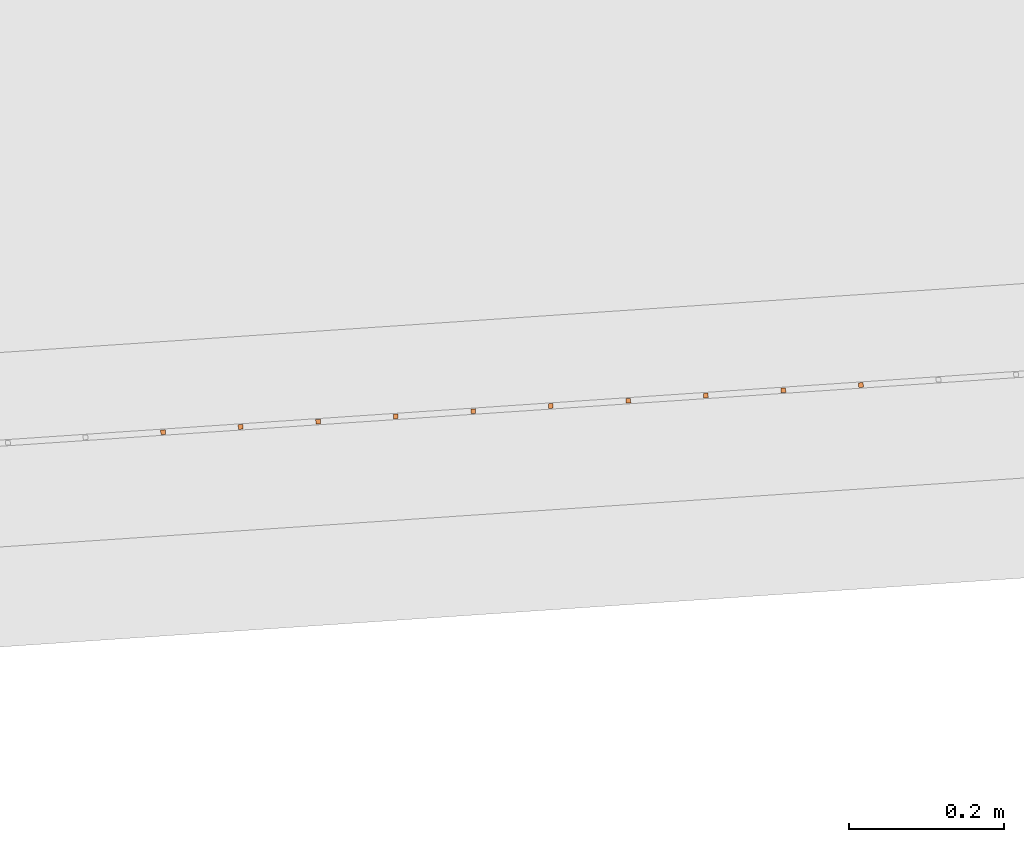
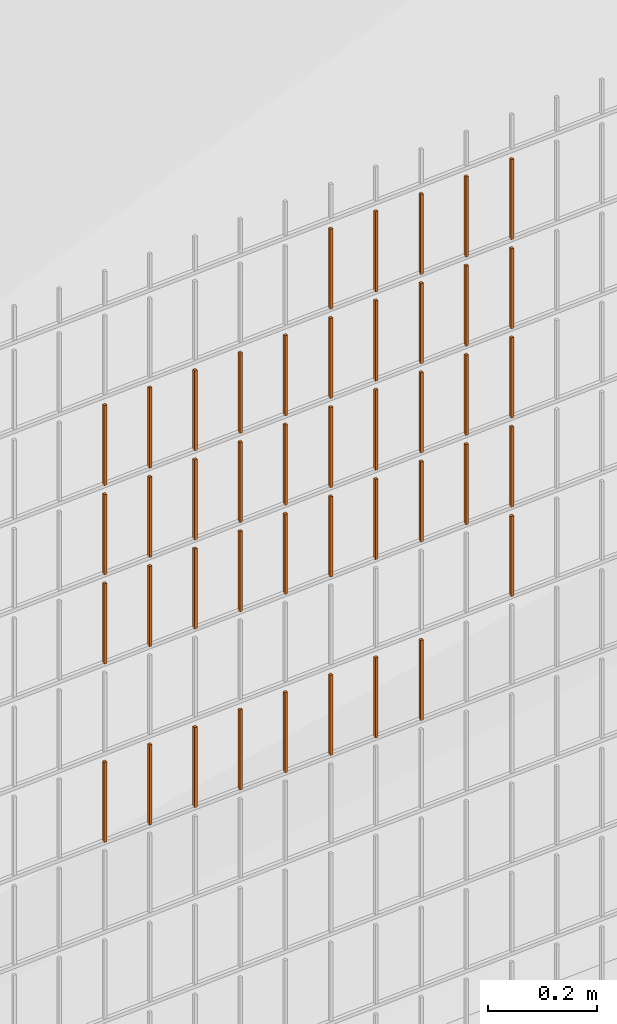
# One storey, part 86 of 1809: 44 proxies, 1 element without a shape of its own.
"""IFC2X3 building model written with IfcOpenShell, lengths in millimetres."""

from ifc_helpers import new_model, entity, si_unit, converted_unit, derived_unit, money_unit, direction, frame, origin_with_axes, place, context, subcontext, project, spatial, faceted_brep, source, transform, mapped, material, type_object, element, aggregate, save


model = new_model("IFC2X3")

# Units and contexts
model_context = context("Model", 3, precision=0.01, world=origin_with_axes(), true_north=direction((0.0, 1.0)))
body_context = subcontext(model_context, "Body", "Model", "MODEL_VIEW")
ifc_project = project(units=[si_unit("LENGTHUNIT", "METRE", prefix="MILLI"), si_unit("AREAUNIT", "SQUARE_METRE"), si_unit("VOLUMEUNIT", "CUBIC_METRE"), converted_unit("PLANEANGLEUNIT", "DEGREE", entity("IfcPlaneAngleMeasure", 0.0174532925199), si_unit("PLANEANGLEUNIT", "RADIAN"), dimensions=[0, 0, 0, 0, 0, 0, 0]), si_unit("SOLIDANGLEUNIT", "STERADIAN"), money_unit("EUR"), converted_unit("TIMEUNIT", "Year", entity("IfcTimeMeasure", 31556926.0), si_unit("TIMEUNIT", "SECOND"), dimensions=[0, 0, 1, 0, 0, 0, 0]), si_unit("MASSUNIT", "GRAM", prefix="KILO"), si_unit("THERMODYNAMICTEMPERATUREUNIT", "DEGREE_CELSIUS"), si_unit("LUMINOUSINTENSITYUNIT", "LUMEN"), si_unit("ENERGYUNIT", "JOULE", prefix="MEGA"), derived_unit("THERMALCONDUCTANCEUNIT", [(si_unit("POWERUNIT", "WATT"), 1), (si_unit("LENGTHUNIT", "METRE"), -1), (si_unit("THERMODYNAMICTEMPERATUREUNIT", "KELVIN"), -1)]), derived_unit("SPECIFICHEATCAPACITYUNIT", [(si_unit("ENERGYUNIT", "JOULE"), 1), (si_unit("MASSUNIT", "GRAM", prefix="KILO"), -1), (si_unit("THERMODYNAMICTEMPERATUREUNIT", "KELVIN"), -1)]), derived_unit("MASSDENSITYUNIT", [(si_unit("MASSUNIT", "GRAM", prefix="KILO"), 1), (si_unit("VOLUMEUNIT", "CUBIC_METRE"), -1)])], contexts=[model_context])

# Site, building, storey
site_placement = place(None, origin_with_axes())
site = spatial("IfcSite", under=ifc_project, at=site_placement, Name="Politse- ja Piirivalveameti ning Päästeameti ühishoone", CompositionType="ELEMENT")
building_placement = place(site_placement, origin_with_axes())
building = spatial("IfcBuilding", under=site, at=building_placement, Name="Politse- ja Piirivalveameti ning Päästeameti ühishoone", CompositionType="ELEMENT")
storey_placement = place(building_placement, origin_with_axes())
storey = spatial("IfcBuildingStorey", under=building, at=storey_placement, Name="Esimene korrus", CompositionType="ELEMENT", Elevation=0.0)

# Proxies
building_element_proxy_type_1 = type_object("IfcBuildingElementProxyType", Name="Railing Type", PredefinedType="NOTDEFINED")
proxy_1_placement = place(storey_placement, frame((89252.001212, -29183.4766571, 203.661247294), z_axis=(0.0, 0.0, 1.0), x_axis=(1.0, 0.0, 0.0)))
proxy_1 = element("IfcBuildingElementProxy", 1, at=proxy_1_placement, inside=storey, type_object=building_element_proxy_type_1, Name="PIIRDEAED")
ifc_material = material(Name="ET-03_Raud")
building_element_proxy_type_2 = type_object("IfcBuildingElementProxyType", Name="IfcBuildingElementProxy", PredefinedType="NOTDEFINED")
shared_shape_1 = source(origin_with_axes(), body_context, "Body", "Brep", [
    faceted_brep([(3.0, 3.0, -0.000752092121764), (-3.0, 3.0, -0.000752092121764), (-3.0, 3.0, 179.99926046), (3.0, 3.0, 179.99926046), (3.0, -3.0, 0.000752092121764), (-3.0, -3.0, 0.000752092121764), (-3.0, -3.0, 180.000764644), (3.0, -3.0, 180.000764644)], [[[0, 1, 2, 3]], [[0, 4, 5, 1]], [[1, 5, 6, 2]], [[3, 2, 6, 7]], [[4, 0, 3, 7]], [[5, 4, 7, 6]]]),
])
proxy_2_placement = place(proxy_1_placement, frame((-100497.68889, -24086.0143815, 801.982469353), z_axis=(0.0, 0.0, 1.0), x_axis=(1.0, 0.0, 0.0)))
proxy_2 = element("IfcBuildingElementProxy", 2, at=proxy_2_placement, type_object=building_element_proxy_type_2, material=ifc_material, Name="BALUSTER - 001", context=body_context, shape_type="MappedRepresentation", body=[
    mapped(shared_shape_1, transform((0.0, 0.0, 0.0), x_axis=(-0.0673926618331, 0.997726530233, 0.0), y_axis=(-0.997726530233, -0.0673926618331, 0.0), z_axis=(0.0, 0.0, 1.0))),
])
proxy_3_placement = place(proxy_1_placement, frame((-100597.461543, -24092.7536477, 801.957399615), z_axis=(0.0, 0.0, 1.0), x_axis=(1.0, 0.0, 0.0)))
proxy_3 = element("IfcBuildingElementProxy", 3, at=proxy_3_placement, type_object=building_element_proxy_type_2, material=ifc_material, Name="BALUSTER - 001", context=body_context, shape_type="MappedRepresentation", body=[
    mapped(shared_shape_1, transform((0.0, 0.0, 0.0), x_axis=(-0.0673926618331, 0.997726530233, 0.0), y_axis=(-0.997726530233, -0.0673926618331, 0.0), z_axis=(0.0, 0.0, 1.0))),
])
proxy_4_placement = place(proxy_1_placement, frame((-100298.143584, -24072.5358491, 1202.03260883), z_axis=(0.0, 0.0, 1.0), x_axis=(1.0, 0.0, 0.0)))
proxy_4 = element("IfcBuildingElementProxy", 4, at=proxy_4_placement, type_object=building_element_proxy_type_2, material=ifc_material, Name="BALUSTER - 001", context=body_context, shape_type="MappedRepresentation", body=[
    mapped(shared_shape_1, transform((0.0, 0.0, 0.0), x_axis=(-0.0673926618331, 0.997726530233, 0.0), y_axis=(-0.997726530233, -0.0673926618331, 0.0), z_axis=(0.0, 0.0, 1.0))),
])
proxy_5_placement = place(proxy_1_placement, frame((-100497.68889, -24086.0143815, 1201.98246935), z_axis=(0.0, 0.0, 1.0), x_axis=(1.0, 0.0, 0.0)))
proxy_5 = element("IfcBuildingElementProxy", 5, at=proxy_5_placement, type_object=building_element_proxy_type_2, material=ifc_material, Name="BALUSTER - 001", context=body_context, shape_type="MappedRepresentation", body=[
    mapped(shared_shape_1, transform((0.0, 0.0, 0.0), x_axis=(-0.0673926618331, 0.997726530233, 0.0), y_axis=(-0.997726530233, -0.0673926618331, 0.0), z_axis=(0.0, 0.0, 1.0))),
])
proxy_6_placement = place(proxy_1_placement, frame((-100597.461543, -24092.7536477, 1201.95739962), z_axis=(0.0, 0.0, 1.0), x_axis=(1.0, 0.0, 0.0)))
proxy_6 = element("IfcBuildingElementProxy", 6, at=proxy_6_placement, type_object=building_element_proxy_type_2, material=ifc_material, Name="BALUSTER - 001", context=body_context, shape_type="MappedRepresentation", body=[
    mapped(shared_shape_1, transform((0.0, 0.0, 0.0), x_axis=(-0.0673926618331, 0.997726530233, 0.0), y_axis=(-0.997726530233, -0.0673926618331, 0.0), z_axis=(0.0, 0.0, 1.0))),
])
shared_shape_2 = source(origin_with_axes(), body_context, "Body", "Brep", [
    faceted_brep([(3.0, 3.0, -0.000752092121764), (-3.0, 3.0, -0.000752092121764), (-3.0, 3.0, 179.99926046), (3.0, 3.0, 179.99926046), (3.0, -3.0, 0.000752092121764), (-3.0, -3.0, 0.000752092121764), (-3.0, -3.0, 180.000764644), (3.0, -3.0, 180.000764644)], [[[0, 1, 2, 3]], [[0, 4, 5, 1]], [[1, 5, 6, 2]], [[3, 2, 6, 7]], [[4, 0, 3, 7]], [[5, 4, 7, 6]]]),
])
proxy_7_placement = place(proxy_1_placement, frame((-100298.143584, -24072.5358491, 1402.03260883), z_axis=(0.0, 0.0, 1.0), x_axis=(1.0, 0.0, 0.0)))
proxy_7 = element("IfcBuildingElementProxy", 7, at=proxy_7_placement, type_object=building_element_proxy_type_2, material=ifc_material, Name="BALUSTER - 001", context=body_context, shape_type="MappedRepresentation", body=[
    mapped(shared_shape_2, transform((0.0, 0.0, 0.0), x_axis=(-0.0673926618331, 0.997726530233, 0.0), y_axis=(-0.997726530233, -0.0673926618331, 0.0), z_axis=(0.0, 0.0, 1.0))),
])
proxy_8_placement = place(proxy_1_placement, frame((-100497.68889, -24086.0143815, 1401.98246935), z_axis=(0.0, 0.0, 1.0), x_axis=(1.0, 0.0, 0.0)))
proxy_8 = element("IfcBuildingElementProxy", 8, at=proxy_8_placement, type_object=building_element_proxy_type_2, material=ifc_material, Name="BALUSTER - 001", context=body_context, shape_type="MappedRepresentation", body=[
    mapped(shared_shape_2, transform((0.0, 0.0, 0.0), x_axis=(-0.0673926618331, 0.997726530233, 0.0), y_axis=(-0.997726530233, -0.0673926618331, 0.0), z_axis=(0.0, 0.0, 1.0))),
])
proxy_9_placement = place(proxy_1_placement, frame((-100597.461543, -24092.7536477, 1401.95739962), z_axis=(0.0, 0.0, 1.0), x_axis=(1.0, 0.0, 0.0)))
proxy_9 = element("IfcBuildingElementProxy", 9, at=proxy_9_placement, type_object=building_element_proxy_type_2, material=ifc_material, Name="BALUSTER - 001", context=body_context, shape_type="MappedRepresentation", body=[
    mapped(shared_shape_2, transform((0.0, 0.0, 0.0), x_axis=(-0.0673926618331, 0.997726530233, 0.0), y_axis=(-0.997726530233, -0.0673926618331, 0.0), z_axis=(0.0, 0.0, 1.0))),
])
proxy_10_placement = place(proxy_1_placement, frame((-100298.143584, -24072.5358491, 1602.03260883), z_axis=(0.0, 0.0, 1.0), x_axis=(1.0, 0.0, 0.0)))
proxy_10 = element("IfcBuildingElementProxy", 10, at=proxy_10_placement, type_object=building_element_proxy_type_2, material=ifc_material, Name="BALUSTER - 001", context=body_context, shape_type="MappedRepresentation", body=[
    mapped(shared_shape_2, transform((0.0, 0.0, 0.0), x_axis=(-0.0673926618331, 0.997726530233, 0.0), y_axis=(-0.997726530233, -0.0673926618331, 0.0), z_axis=(0.0, 0.0, 1.0))),
])
proxy_11_placement = place(proxy_1_placement, frame((-100497.68889, -24086.0143815, 1601.98246935), z_axis=(0.0, 0.0, 1.0), x_axis=(1.0, 0.0, 0.0)))
proxy_11 = element("IfcBuildingElementProxy", 11, at=proxy_11_placement, type_object=building_element_proxy_type_2, material=ifc_material, Name="BALUSTER - 001", context=body_context, shape_type="MappedRepresentation", body=[
    mapped(shared_shape_2, transform((0.0, 0.0, 0.0), x_axis=(-0.0673926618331, 0.997726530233, 0.0), y_axis=(-0.997726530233, -0.0673926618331, 0.0), z_axis=(0.0, 0.0, 1.0))),
])
proxy_12_placement = place(proxy_1_placement, frame((-100597.461543, -24092.7536477, 1601.95739962), z_axis=(0.0, 0.0, 1.0), x_axis=(1.0, 0.0, 0.0)))
proxy_12 = element("IfcBuildingElementProxy", 12, at=proxy_12_placement, type_object=building_element_proxy_type_2, material=ifc_material, Name="BALUSTER - 001", context=body_context, shape_type="MappedRepresentation", body=[
    mapped(shared_shape_2, transform((0.0, 0.0, 0.0), x_axis=(-0.0673926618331, 0.997726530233, 0.0), y_axis=(-0.997726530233, -0.0673926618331, 0.0), z_axis=(0.0, 0.0, 1.0))),
])
shared_shape_3 = source(origin_with_axes(), body_context, "Body", "Brep", [
    faceted_brep([(3.0, 3.0, -0.000752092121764), (-3.0, 3.0, -0.000752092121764), (-3.0, 3.0, 179.99926046), (3.0, 3.0, 179.99926046), (3.0, -3.0, 0.000752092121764), (-3.0, -3.0, 0.000752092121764), (-3.0, -3.0, 180.000764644), (3.0, -3.0, 180.000764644)], [[[0, 1, 2, 3]], [[0, 4, 5, 1]], [[1, 5, 6, 2]], [[3, 2, 6, 7]], [[4, 0, 3, 7]], [[5, 4, 7, 6]]]),
])
proxy_13_placement = place(proxy_1_placement, frame((-101096.324808, -24126.4499786, 801.832050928), z_axis=(0.0, 0.0, 1.0), x_axis=(1.0, 0.0, 0.0)))
proxy_13 = element("IfcBuildingElementProxy", 13, at=proxy_13_placement, type_object=building_element_proxy_type_2, material=ifc_material, Name="BALUSTER - 001", context=body_context, shape_type="MappedRepresentation", body=[
    mapped(shared_shape_3, transform((0.0, 0.0, 0.0), x_axis=(-0.0673926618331, 0.997726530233, 0.0), y_axis=(-0.997726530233, -0.0673926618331, 0.0), z_axis=(0.0, 0.0, 1.0))),
])
proxy_14_placement = place(proxy_1_placement, frame((-100298.143584, -24072.5358491, 1802.03260883), z_axis=(0.0, 0.0, 1.0), x_axis=(1.0, 0.0, 0.0)))
proxy_14 = element("IfcBuildingElementProxy", 14, at=proxy_14_placement, type_object=building_element_proxy_type_2, material=ifc_material, Name="BALUSTER - 001", context=body_context, shape_type="MappedRepresentation", body=[
    mapped(shared_shape_3, transform((0.0, 0.0, 0.0), x_axis=(-0.0673926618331, 0.997726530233, 0.0), y_axis=(-0.997726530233, -0.0673926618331, 0.0), z_axis=(0.0, 0.0, 1.0))),
])
proxy_15_placement = place(proxy_1_placement, frame((-100497.68889, -24086.0143815, 1801.98246935), z_axis=(0.0, 0.0, 1.0), x_axis=(1.0, 0.0, 0.0)))
proxy_15 = element("IfcBuildingElementProxy", 15, at=proxy_15_placement, type_object=building_element_proxy_type_2, material=ifc_material, Name="BALUSTER - 001", context=body_context, shape_type="MappedRepresentation", body=[
    mapped(shared_shape_3, transform((0.0, 0.0, 0.0), x_axis=(-0.0673926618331, 0.997726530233, 0.0), y_axis=(-0.997726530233, -0.0673926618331, 0.0), z_axis=(0.0, 0.0, 1.0))),
])
proxy_16_placement = place(proxy_1_placement, frame((-100597.461543, -24092.7536477, 1801.95739962), z_axis=(0.0, 0.0, 1.0), x_axis=(1.0, 0.0, 0.0)))
proxy_16 = element("IfcBuildingElementProxy", 16, at=proxy_16_placement, type_object=building_element_proxy_type_2, material=ifc_material, Name="BALUSTER - 001", context=body_context, shape_type="MappedRepresentation", body=[
    mapped(shared_shape_3, transform((0.0, 0.0, 0.0), x_axis=(-0.0673926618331, 0.997726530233, 0.0), y_axis=(-0.997726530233, -0.0673926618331, 0.0), z_axis=(0.0, 0.0, 1.0))),
])
shared_shape_4 = source(origin_with_axes(), body_context, "Body", "Brep", [
    faceted_brep([(3.0, 3.0, -0.000752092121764), (-3.0, 3.0, -0.000752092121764), (-3.0, 3.0, 179.99926046), (3.0, 3.0, 179.99926046), (3.0, -3.0, 0.000752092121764), (-3.0, -3.0, 0.000752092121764), (-3.0, -3.0, 180.000764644), (3.0, -3.0, 180.000764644)], [[[0, 1, 2, 3]], [[0, 4, 5, 1]], [[1, 5, 6, 2]], [[3, 2, 6, 7]], [[4, 0, 3, 7]], [[5, 4, 7, 6]]]),
])
proxy_17_placement = place(proxy_1_placement, frame((-100797.006849, -24106.2321801, 1201.90726014), z_axis=(0.0, 0.0, 1.0), x_axis=(1.0, 0.0, 0.0)))
proxy_17 = element("IfcBuildingElementProxy", 17, at=proxy_17_placement, type_object=building_element_proxy_type_2, material=ifc_material, Name="BALUSTER - 001", context=body_context, shape_type="MappedRepresentation", body=[
    mapped(shared_shape_4, transform((0.0, 0.0, 0.0), x_axis=(-0.0673926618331, 0.997726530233, 0.0), y_axis=(-0.997726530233, -0.0673926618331, 0.0), z_axis=(0.0, 0.0, 1.0))),
])
proxy_18_placement = place(proxy_1_placement, frame((-101096.324808, -24126.4499786, 1201.83205093), z_axis=(0.0, 0.0, 1.0), x_axis=(1.0, 0.0, 0.0)))
proxy_18 = element("IfcBuildingElementProxy", 18, at=proxy_18_placement, type_object=building_element_proxy_type_2, material=ifc_material, Name="BALUSTER - 001", context=body_context, shape_type="MappedRepresentation", body=[
    mapped(shared_shape_4, transform((0.0, 0.0, 0.0), x_axis=(-0.0673926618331, 0.997726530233, 0.0), y_axis=(-0.997726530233, -0.0673926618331, 0.0), z_axis=(0.0, 0.0, 1.0))),
])
shared_shape_5 = source(origin_with_axes(), body_context, "Body", "Brep", [
    faceted_brep([(3.0, 3.0, -0.000752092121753), (-3.0, 3.0, -0.000752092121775), (-3.0, 3.0, 179.99926046), (3.0, 3.0, 179.99926046), (3.0, -3.0, 0.000752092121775), (-3.0, -3.0, 0.000752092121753), (-3.0, -3.0, 180.000764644), (3.0, -3.0, 180.000764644)], [[[0, 1, 2, 3]], [[0, 4, 5, 1]], [[1, 5, 6, 2]], [[3, 2, 6, 7]], [[4, 0, 3, 7]], [[5, 4, 7, 6]]]),
])
proxy_19_placement = place(proxy_1_placement, frame((-100896.779502, -24112.9714462, 801.882190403), z_axis=(0.0, 0.0, 1.0), x_axis=(1.0, 0.0, 0.0)))
proxy_19 = element("IfcBuildingElementProxy", 19, at=proxy_19_placement, type_object=building_element_proxy_type_2, material=ifc_material, Name="BALUSTER - 001", context=body_context, shape_type="MappedRepresentation", body=[
    mapped(shared_shape_5, transform((0.0, 0.0, 0.0), x_axis=(-0.0673926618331, 0.997726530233, 0.0), y_axis=(-0.997726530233, -0.0673926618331, 0.0), z_axis=(0.0, 0.0, 1.0))),
])
proxy_20_placement = place(proxy_1_placement, frame((-100198.370931, -24065.796583, 1202.05767856), z_axis=(0.0, 0.0, 1.0), x_axis=(1.0, 0.0, 0.0)))
proxy_20 = element("IfcBuildingElementProxy", 20, at=proxy_20_placement, type_object=building_element_proxy_type_2, material=ifc_material, Name="BALUSTER - 001", context=body_context, shape_type="MappedRepresentation", body=[
    mapped(shared_shape_5, transform((0.0, 0.0, 0.0), x_axis=(-0.0673926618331, 0.997726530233, 0.0), y_axis=(-0.997726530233, -0.0673926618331, 0.0), z_axis=(0.0, 0.0, 1.0))),
])
proxy_21_placement = place(proxy_1_placement, frame((-100896.779502, -24112.9714462, 1201.8821904), z_axis=(0.0, 0.0, 1.0), x_axis=(1.0, 0.0, 0.0)))
proxy_21 = element("IfcBuildingElementProxy", 21, at=proxy_21_placement, type_object=building_element_proxy_type_2, material=ifc_material, Name="BALUSTER - 001", context=body_context, shape_type="MappedRepresentation", body=[
    mapped(shared_shape_5, transform((0.0, 0.0, 0.0), x_axis=(-0.0673926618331, 0.997726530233, 0.0), y_axis=(-0.997726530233, -0.0673926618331, 0.0), z_axis=(0.0, 0.0, 1.0))),
])
shared_shape_6 = source(origin_with_axes(), body_context, "Body", "Brep", [
    faceted_brep([(3.0, 3.0, -0.000752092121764), (-3.0, 3.0, -0.000752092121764), (-3.0, 3.0, 179.99926046), (3.0, 3.0, 179.99926046), (3.0, -3.0, 0.000752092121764), (-3.0, -3.0, 0.000752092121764), (-3.0, -3.0, 180.000764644), (3.0, -3.0, 180.000764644)], [[[0, 1, 2, 3]], [[0, 4, 5, 1]], [[1, 5, 6, 2]], [[3, 2, 6, 7]], [[4, 0, 3, 7]], [[5, 4, 7, 6]]]),
])
proxy_22_placement = place(proxy_1_placement, frame((-100697.234196, -24099.4929139, 801.932329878), z_axis=(0.0, 0.0, 1.0), x_axis=(1.0, 0.0, 0.0)))
proxy_22 = element("IfcBuildingElementProxy", 22, at=proxy_22_placement, type_object=building_element_proxy_type_2, material=ifc_material, Name="BALUSTER - 001", context=body_context, shape_type="MappedRepresentation", body=[
    mapped(shared_shape_6, transform((0.0, 0.0, 0.0), x_axis=(-0.0673926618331, 0.997726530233, 0.0), y_axis=(-0.997726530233, -0.0673926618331, 0.0), z_axis=(0.0, 0.0, 1.0))),
])
proxy_23_placement = place(proxy_1_placement, frame((-100397.916237, -24079.2751153, 1802.00753909), z_axis=(0.0, 0.0, 1.0), x_axis=(1.0, 0.0, 0.0)))
proxy_23 = element("IfcBuildingElementProxy", 23, at=proxy_23_placement, type_object=building_element_proxy_type_2, material=ifc_material, Name="BALUSTER - 001", context=body_context, shape_type="MappedRepresentation", body=[
    mapped(shared_shape_6, transform((0.0, 0.0, 0.0), x_axis=(-0.0673926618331, 0.997726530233, 0.0), y_axis=(-0.997726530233, -0.0673926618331, 0.0), z_axis=(0.0, 0.0, 1.0))),
])
shared_shape_7 = source(origin_with_axes(), body_context, "Body", "Brep", [
    faceted_brep([(3.0, 3.0, -0.000752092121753), (-3.0, 3.0, -0.000752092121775), (-3.0, 3.0, 179.99926046), (3.0, 3.0, 179.99926046), (3.0, -3.0, 0.000752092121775), (-3.0, -3.0, 0.000752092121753), (-3.0, -3.0, 180.000764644), (3.0, -3.0, 180.000764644)], [[[0, 1, 2, 3]], [[0, 4, 5, 1]], [[1, 5, 6, 2]], [[3, 2, 6, 7]], [[4, 0, 3, 7]], [[5, 4, 7, 6]]]),
])
proxy_24_placement = place(proxy_1_placement, frame((-100797.006849, -24106.2321801, 801.90726014), z_axis=(0.0, 0.0, 1.0), x_axis=(1.0, 0.0, 0.0)))
proxy_24 = element("IfcBuildingElementProxy", 24, at=proxy_24_placement, type_object=building_element_proxy_type_2, material=ifc_material, Name="BALUSTER - 001", context=body_context, shape_type="MappedRepresentation", body=[
    mapped(shared_shape_7, transform((0.0, 0.0, 0.0), x_axis=(-0.0673926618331, 0.997726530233, 0.0), y_axis=(-0.997726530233, -0.0673926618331, 0.0), z_axis=(0.0, 0.0, 1.0))),
])
proxy_25_placement = place(proxy_1_placement, frame((-100697.234196, -24099.4929139, 1201.93232988), z_axis=(0.0, 0.0, 1.0), x_axis=(1.0, 0.0, 0.0)))
proxy_25 = element("IfcBuildingElementProxy", 25, at=proxy_25_placement, type_object=building_element_proxy_type_2, material=ifc_material, Name="BALUSTER - 001", context=body_context, shape_type="MappedRepresentation", body=[
    mapped(shared_shape_7, transform((0.0, 0.0, 0.0), x_axis=(-0.0673926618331, 0.997726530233, 0.0), y_axis=(-0.997726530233, -0.0673926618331, 0.0), z_axis=(0.0, 0.0, 1.0))),
])
proxy_26_placement = place(proxy_1_placement, frame((-100198.370931, -24065.796583, 1802.05767856), z_axis=(0.0, 0.0, 1.0), x_axis=(1.0, 0.0, 0.0)))
proxy_26 = element("IfcBuildingElementProxy", 26, at=proxy_26_placement, type_object=building_element_proxy_type_2, material=ifc_material, Name="BALUSTER - 001", context=body_context, shape_type="MappedRepresentation", body=[
    mapped(shared_shape_7, transform((0.0, 0.0, 0.0), x_axis=(-0.0673926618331, 0.997726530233, 0.0), y_axis=(-0.997726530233, -0.0673926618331, 0.0), z_axis=(0.0, 0.0, 1.0))),
])
shared_shape_8 = source(origin_with_axes(), body_context, "Body", "Brep", [
    faceted_brep([(3.0, 3.0, -0.000752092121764), (-3.0, 3.0, -0.000752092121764), (-3.0, 3.0, 179.99926046), (3.0, 3.0, 179.99926046), (3.0, -3.0, 0.000752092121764), (-3.0, -3.0, 0.000752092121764), (-3.0, -3.0, 180.000764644), (3.0, -3.0, 180.000764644)], [[[0, 1, 2, 3]], [[0, 4, 5, 1]], [[1, 5, 6, 2]], [[3, 2, 6, 7]], [[4, 0, 3, 7]], [[5, 4, 7, 6]]]),
])
proxy_27_placement = place(proxy_1_placement, frame((-100797.006849, -24106.2321801, 1401.90726014), z_axis=(0.0, 0.0, 1.0), x_axis=(1.0, 0.0, 0.0)))
proxy_27 = element("IfcBuildingElementProxy", 27, at=proxy_27_placement, type_object=building_element_proxy_type_2, material=ifc_material, Name="BALUSTER - 001", context=body_context, shape_type="MappedRepresentation", body=[
    mapped(shared_shape_8, transform((0.0, 0.0, 0.0), x_axis=(-0.0673926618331, 0.997726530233, 0.0), y_axis=(-0.997726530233, -0.0673926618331, 0.0), z_axis=(0.0, 0.0, 1.0))),
])
proxy_28_placement = place(proxy_1_placement, frame((-101096.324808, -24126.4499786, 1401.83205093), z_axis=(0.0, 0.0, 1.0), x_axis=(1.0, 0.0, 0.0)))
proxy_28 = element("IfcBuildingElementProxy", 28, at=proxy_28_placement, type_object=building_element_proxy_type_2, material=ifc_material, Name="BALUSTER - 001", context=body_context, shape_type="MappedRepresentation", body=[
    mapped(shared_shape_8, transform((0.0, 0.0, 0.0), x_axis=(-0.0673926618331, 0.997726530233, 0.0), y_axis=(-0.997726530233, -0.0673926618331, 0.0), z_axis=(0.0, 0.0, 1.0))),
])
proxy_29_placement = place(proxy_1_placement, frame((-100797.006849, -24106.2321801, 1601.90726014), z_axis=(0.0, 0.0, 1.0), x_axis=(1.0, 0.0, 0.0)))
proxy_29 = element("IfcBuildingElementProxy", 29, at=proxy_29_placement, type_object=building_element_proxy_type_2, material=ifc_material, Name="BALUSTER - 001", context=body_context, shape_type="MappedRepresentation", body=[
    mapped(shared_shape_8, transform((0.0, 0.0, 0.0), x_axis=(-0.0673926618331, 0.997726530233, 0.0), y_axis=(-0.997726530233, -0.0673926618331, 0.0), z_axis=(0.0, 0.0, 1.0))),
])
proxy_30_placement = place(proxy_1_placement, frame((-101096.324808, -24126.4499786, 1601.83205093), z_axis=(0.0, 0.0, 1.0), x_axis=(1.0, 0.0, 0.0)))
proxy_30 = element("IfcBuildingElementProxy", 30, at=proxy_30_placement, type_object=building_element_proxy_type_2, material=ifc_material, Name="BALUSTER - 001", context=body_context, shape_type="MappedRepresentation", body=[
    mapped(shared_shape_8, transform((0.0, 0.0, 0.0), x_axis=(-0.0673926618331, 0.997726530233, 0.0), y_axis=(-0.997726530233, -0.0673926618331, 0.0), z_axis=(0.0, 0.0, 1.0))),
])
shared_shape_9 = source(origin_with_axes(), body_context, "Body", "Brep", [
    faceted_brep([(3.0, 3.0, -0.000752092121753), (-3.0, 3.0, -0.000752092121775), (-3.0, 3.0, 179.99926046), (3.0, 3.0, 179.99926046), (3.0, -3.0, 0.000752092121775), (-3.0, -3.0, 0.000752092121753), (-3.0, -3.0, 180.000764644), (3.0, -3.0, 180.000764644)], [[[0, 1, 2, 3]], [[0, 4, 5, 1]], [[1, 5, 6, 2]], [[3, 2, 6, 7]], [[4, 0, 3, 7]], [[5, 4, 7, 6]]]),
])
proxy_31_placement = place(proxy_1_placement, frame((-100198.370931, -24065.796583, 1402.05767856), z_axis=(0.0, 0.0, 1.0), x_axis=(1.0, 0.0, 0.0)))
proxy_31 = element("IfcBuildingElementProxy", 31, at=proxy_31_placement, type_object=building_element_proxy_type_2, material=ifc_material, Name="BALUSTER - 001", context=body_context, shape_type="MappedRepresentation", body=[
    mapped(shared_shape_9, transform((0.0, 0.0, 0.0), x_axis=(-0.0673926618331, 0.997726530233, 0.0), y_axis=(-0.997726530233, -0.0673926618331, 0.0), z_axis=(0.0, 0.0, 1.0))),
])
proxy_32_placement = place(proxy_1_placement, frame((-100896.779502, -24112.9714462, 1401.8821904), z_axis=(0.0, 0.0, 1.0), x_axis=(1.0, 0.0, 0.0)))
proxy_32 = element("IfcBuildingElementProxy", 32, at=proxy_32_placement, type_object=building_element_proxy_type_2, material=ifc_material, Name="BALUSTER - 001", context=body_context, shape_type="MappedRepresentation", body=[
    mapped(shared_shape_9, transform((0.0, 0.0, 0.0), x_axis=(-0.0673926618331, 0.997726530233, 0.0), y_axis=(-0.997726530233, -0.0673926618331, 0.0), z_axis=(0.0, 0.0, 1.0))),
])
proxy_33_placement = place(proxy_1_placement, frame((-100198.370931, -24065.796583, 1602.05767856), z_axis=(0.0, 0.0, 1.0), x_axis=(1.0, 0.0, 0.0)))
proxy_33 = element("IfcBuildingElementProxy", 33, at=proxy_33_placement, type_object=building_element_proxy_type_2, material=ifc_material, Name="BALUSTER - 001", context=body_context, shape_type="MappedRepresentation", body=[
    mapped(shared_shape_9, transform((0.0, 0.0, 0.0), x_axis=(-0.0673926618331, 0.997726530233, 0.0), y_axis=(-0.997726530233, -0.0673926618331, 0.0), z_axis=(0.0, 0.0, 1.0))),
])
proxy_34_placement = place(proxy_1_placement, frame((-100896.779502, -24112.9714462, 1601.8821904), z_axis=(0.0, 0.0, 1.0), x_axis=(1.0, 0.0, 0.0)))
proxy_34 = element("IfcBuildingElementProxy", 34, at=proxy_34_placement, type_object=building_element_proxy_type_2, material=ifc_material, Name="BALUSTER - 001", context=body_context, shape_type="MappedRepresentation", body=[
    mapped(shared_shape_9, transform((0.0, 0.0, 0.0), x_axis=(-0.0673926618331, 0.997726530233, 0.0), y_axis=(-0.997726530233, -0.0673926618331, 0.0), z_axis=(0.0, 0.0, 1.0))),
])
shared_shape_10 = source(origin_with_axes(), body_context, "Body", "Brep", [
    faceted_brep([(3.0, 3.0, -0.000752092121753), (-3.0, 3.0, -0.000752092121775), (-3.0, 3.0, 179.99926046), (3.0, 3.0, 179.99926046), (3.0, -3.0, 0.000752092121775), (-3.0, -3.0, 0.000752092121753), (-3.0, -3.0, 180.000764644), (3.0, -3.0, 180.000764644)], [[[0, 1, 2, 3]], [[0, 4, 5, 1]], [[1, 5, 6, 2]], [[3, 2, 6, 7]], [[4, 0, 3, 7]], [[5, 4, 7, 6]]]),
])
proxy_35_placement = place(proxy_1_placement, frame((-100697.234196, -24099.4929139, 1401.93232988), z_axis=(0.0, 0.0, 1.0), x_axis=(1.0, 0.0, 0.0)))
proxy_35 = element("IfcBuildingElementProxy", 35, at=proxy_35_placement, type_object=building_element_proxy_type_2, material=ifc_material, Name="BALUSTER - 001", context=body_context, shape_type="MappedRepresentation", body=[
    mapped(shared_shape_10, transform((0.0, 0.0, 0.0), x_axis=(-0.0673926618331, 0.997726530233, 0.0), y_axis=(-0.997726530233, -0.0673926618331, 0.0), z_axis=(0.0, 0.0, 1.0))),
])
proxy_36_placement = place(proxy_1_placement, frame((-100697.234196, -24099.4929139, 1601.93232988), z_axis=(0.0, 0.0, 1.0), x_axis=(1.0, 0.0, 0.0)))
proxy_36 = element("IfcBuildingElementProxy", 36, at=proxy_36_placement, type_object=building_element_proxy_type_2, material=ifc_material, Name="BALUSTER - 001", context=body_context, shape_type="MappedRepresentation", body=[
    mapped(shared_shape_10, transform((0.0, 0.0, 0.0), x_axis=(-0.0673926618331, 0.997726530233, 0.0), y_axis=(-0.997726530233, -0.0673926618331, 0.0), z_axis=(0.0, 0.0, 1.0))),
])
shared_shape_11 = source(origin_with_axes(), body_context, "Body", "Brep", [
    faceted_brep([(3.0, 3.0, -0.000752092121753), (-3.0, 3.0, -0.000752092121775), (-3.0, 3.0, 179.99926046), (3.0, 3.0, 179.99926046), (3.0, -3.0, 0.000752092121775), (-3.0, -3.0, 0.000752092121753), (-3.0, -3.0, 180.000764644), (3.0, -3.0, 180.000764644)], [[[0, 1, 2, 3]], [[0, 4, 5, 1]], [[1, 5, 6, 2]], [[3, 2, 6, 7]], [[4, 0, 3, 7]], [[5, 4, 7, 6]]]),
])
proxy_37_placement = place(proxy_1_placement, frame((-100996.552155, -24119.7107124, 801.857120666), z_axis=(0.0, 0.0, 1.0), x_axis=(1.0, 0.0, 0.0)))
proxy_37 = element("IfcBuildingElementProxy", 37, at=proxy_37_placement, type_object=building_element_proxy_type_2, material=ifc_material, Name="BALUSTER - 001", context=body_context, shape_type="MappedRepresentation", body=[
    mapped(shared_shape_11, transform((0.0, 0.0, 0.0), x_axis=(-0.0673926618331, 0.997726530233, 0.0), y_axis=(-0.997726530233, -0.0673926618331, 0.0), z_axis=(0.0, 0.0, 1.0))),
])
shared_shape_12 = source(origin_with_axes(), body_context, "Body", "Brep", [
    faceted_brep([(3.0, 3.0, -0.000752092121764), (-3.0, 3.0, -0.000752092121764), (-3.0, 3.0, 179.99926046), (3.0, 3.0, 179.99926046), (3.0, -3.0, 0.000752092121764), (-3.0, -3.0, 0.000752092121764), (-3.0, -3.0, 180.000764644), (3.0, -3.0, 180.000764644)], [[[0, 1, 2, 3]], [[0, 4, 5, 1]], [[1, 5, 6, 2]], [[3, 2, 6, 7]], [[4, 0, 3, 7]], [[5, 4, 7, 6]]]),
])
proxy_38_placement = place(proxy_1_placement, frame((-100397.916237, -24079.2751153, 1202.00753909), z_axis=(0.0, 0.0, 1.0), x_axis=(1.0, 0.0, 0.0)))
proxy_38 = element("IfcBuildingElementProxy", 38, at=proxy_38_placement, type_object=building_element_proxy_type_2, material=ifc_material, Name="BALUSTER - 001", context=body_context, shape_type="MappedRepresentation", body=[
    mapped(shared_shape_12, transform((0.0, 0.0, 0.0), x_axis=(-0.0673926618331, 0.997726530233, 0.0), y_axis=(-0.997726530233, -0.0673926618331, 0.0), z_axis=(0.0, 0.0, 1.0))),
])
proxy_39_placement = place(proxy_1_placement, frame((-100996.552155, -24119.7107124, 1201.85712067), z_axis=(0.0, 0.0, 1.0), x_axis=(1.0, 0.0, 0.0)))
proxy_39 = element("IfcBuildingElementProxy", 39, at=proxy_39_placement, type_object=building_element_proxy_type_2, material=ifc_material, Name="BALUSTER - 001", context=body_context, shape_type="MappedRepresentation", body=[
    mapped(shared_shape_12, transform((0.0, 0.0, 0.0), x_axis=(-0.0673926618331, 0.997726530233, 0.0), y_axis=(-0.997726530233, -0.0673926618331, 0.0), z_axis=(0.0, 0.0, 1.0))),
])
shared_shape_13 = source(origin_with_axes(), body_context, "Body", "Brep", [
    faceted_brep([(3.0, 3.0, -0.000752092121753), (-3.0, 3.0, -0.000752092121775), (-3.0, 3.0, 179.99926046), (3.0, 3.0, 179.99926046), (3.0, -3.0, 0.000752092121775), (-3.0, -3.0, 0.000752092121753), (-3.0, -3.0, 180.000764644), (3.0, -3.0, 180.000764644)], [[[0, 1, 2, 3]], [[0, 4, 5, 1]], [[1, 5, 6, 2]], [[3, 2, 6, 7]], [[4, 0, 3, 7]], [[5, 4, 7, 6]]]),
])
proxy_40_placement = place(proxy_1_placement, frame((-100397.916237, -24079.2751153, 802.00753909), z_axis=(0.0, 0.0, 1.0), x_axis=(1.0, 0.0, 0.0)))
proxy_40 = element("IfcBuildingElementProxy", 40, at=proxy_40_placement, type_object=building_element_proxy_type_2, material=ifc_material, Name="BALUSTER - 001", context=body_context, shape_type="MappedRepresentation", body=[
    mapped(shared_shape_13, transform((0.0, 0.0, 0.0), x_axis=(-0.0673926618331, 0.997726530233, 0.0), y_axis=(-0.997726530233, -0.0673926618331, 0.0), z_axis=(0.0, 0.0, 1.0))),
])
shared_shape_14 = source(origin_with_axes(), body_context, "Body", "Brep", [
    faceted_brep([(3.0, 3.0, -0.000752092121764), (-3.0, 3.0, -0.000752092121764), (-3.0, 3.0, 179.99926046), (3.0, 3.0, 179.99926046), (3.0, -3.0, 0.000752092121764), (-3.0, -3.0, 0.000752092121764), (-3.0, -3.0, 180.000764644), (3.0, -3.0, 180.000764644)], [[[0, 1, 2, 3]], [[0, 4, 5, 1]], [[1, 5, 6, 2]], [[3, 2, 6, 7]], [[4, 0, 3, 7]], [[5, 4, 7, 6]]]),
])
proxy_41_placement = place(proxy_1_placement, frame((-100397.916237, -24079.2751153, 1402.00753909), z_axis=(0.0, 0.0, 1.0), x_axis=(1.0, 0.0, 0.0)))
proxy_41 = element("IfcBuildingElementProxy", 41, at=proxy_41_placement, type_object=building_element_proxy_type_2, material=ifc_material, Name="BALUSTER - 001", context=body_context, shape_type="MappedRepresentation", body=[
    mapped(shared_shape_14, transform((0.0, 0.0, 0.0), x_axis=(-0.0673926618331, 0.997726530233, 0.0), y_axis=(-0.997726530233, -0.0673926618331, 0.0), z_axis=(0.0, 0.0, 1.0))),
])
proxy_42_placement = place(proxy_1_placement, frame((-100996.552155, -24119.7107124, 1401.85712067), z_axis=(0.0, 0.0, 1.0), x_axis=(1.0, 0.0, 0.0)))
proxy_42 = element("IfcBuildingElementProxy", 42, at=proxy_42_placement, type_object=building_element_proxy_type_2, material=ifc_material, Name="BALUSTER - 001", context=body_context, shape_type="MappedRepresentation", body=[
    mapped(shared_shape_14, transform((0.0, 0.0, 0.0), x_axis=(-0.0673926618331, 0.997726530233, 0.0), y_axis=(-0.997726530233, -0.0673926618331, 0.0), z_axis=(0.0, 0.0, 1.0))),
])
proxy_43_placement = place(proxy_1_placement, frame((-100397.916237, -24079.2751153, 1602.00753909), z_axis=(0.0, 0.0, 1.0), x_axis=(1.0, 0.0, 0.0)))
proxy_43 = element("IfcBuildingElementProxy", 43, at=proxy_43_placement, type_object=building_element_proxy_type_2, material=ifc_material, Name="BALUSTER - 001", context=body_context, shape_type="MappedRepresentation", body=[
    mapped(shared_shape_14, transform((0.0, 0.0, 0.0), x_axis=(-0.0673926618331, 0.997726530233, 0.0), y_axis=(-0.997726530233, -0.0673926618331, 0.0), z_axis=(0.0, 0.0, 1.0))),
])
proxy_44_placement = place(proxy_1_placement, frame((-100996.552155, -24119.7107124, 1601.85712067), z_axis=(0.0, 0.0, 1.0), x_axis=(1.0, 0.0, 0.0)))
proxy_44 = element("IfcBuildingElementProxy", 44, at=proxy_44_placement, type_object=building_element_proxy_type_2, material=ifc_material, Name="BALUSTER - 001", context=body_context, shape_type="MappedRepresentation", body=[
    mapped(shared_shape_14, transform((0.0, 0.0, 0.0), x_axis=(-0.0673926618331, 0.997726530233, 0.0), y_axis=(-0.997726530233, -0.0673926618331, 0.0), z_axis=(0.0, 0.0, 1.0))),
])
shared_shape_15 = source(origin_with_axes(), body_context, "Body", "Brep", [
    faceted_brep([(3.0, 3.0, -0.000752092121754), (-3.0, 3.0, -0.000752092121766), (-3.00000000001, 3.00000000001, 179.99926046), (2.99999999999, 3.00000000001, 179.99926046), (3.0, -3.0, 0.000752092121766), (-3.0, -3.0, 0.000752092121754), (-3.00000000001, -2.99999999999, 180.000764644), (2.99999999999, -2.99999999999, 180.000764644)], [[[0, 1, 2, 3]], [[0, 4, 5, 1]], [[1, 5, 6, 2]], [[3, 2, 6, 7]], [[4, 0, 3, 7]], [[5, 4, 7, 6]]]),
])
proxy_45_placement = place(proxy_1_placement, frame((-100198.370931, -24065.796583, 1002.05767856), z_axis=(0.0, 0.0, 1.0), x_axis=(1.0, 0.0, 0.0)))
proxy_45 = element("IfcBuildingElementProxy", 45, at=proxy_45_placement, type_object=building_element_proxy_type_2, material=ifc_material, Name="BALUSTER - 001", context=body_context, shape_type="MappedRepresentation", body=[
    mapped(shared_shape_15, transform((0.0, 0.0, 0.0), x_axis=(-0.0673926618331, 0.997726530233, 0.0), y_axis=(-0.997726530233, -0.0673926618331, 0.0), z_axis=(0.0, 0.0, 1.0))),
])
aggregate(proxy_1, [proxy_40, proxy_2, proxy_3, proxy_22, proxy_24, proxy_19, proxy_37, proxy_13, proxy_45, proxy_20, proxy_4, proxy_38, proxy_5, proxy_6, proxy_25, proxy_17, proxy_21, proxy_39, proxy_18, proxy_31, proxy_7, proxy_41, proxy_8, proxy_9, proxy_35, proxy_27, proxy_32, proxy_42, proxy_28, proxy_33, proxy_10, proxy_43, proxy_11, proxy_12, proxy_36, proxy_29, proxy_34, proxy_44, proxy_30, proxy_26, proxy_14, proxy_23, proxy_15, proxy_16])

save(model, "model.ifc")
